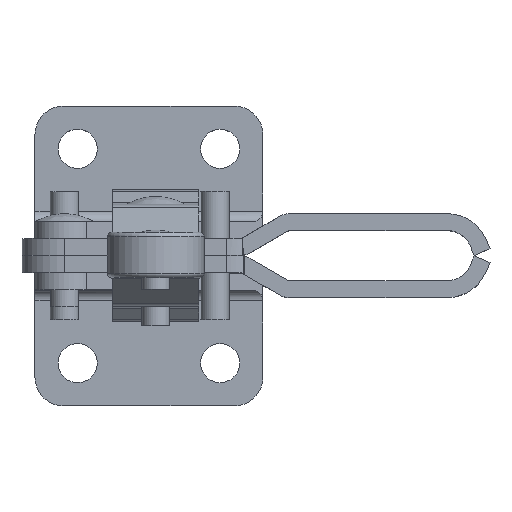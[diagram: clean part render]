
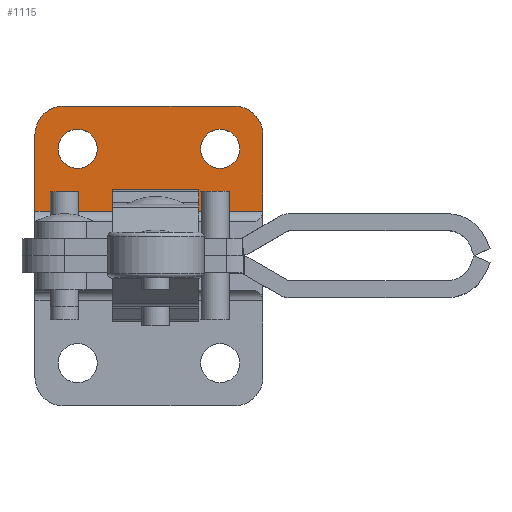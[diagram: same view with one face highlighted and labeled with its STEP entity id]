
A CAD part, top view. The second image highlights one B-rep face of the part: STEP entity #1115.
In plain terms, the highlighted planar face has unit normal (0, 0, 1).
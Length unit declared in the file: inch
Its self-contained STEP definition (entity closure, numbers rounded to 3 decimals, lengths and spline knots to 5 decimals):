
#496=FACE_BOUND('',#2947,.T.);
#497=FACE_BOUND('',#2948,.T.);
#1115=ADVANCED_FACE('',(#496,#497,#2206),#1631,.F.);
#1631=PLANE('',#12780);
#2206=FACE_OUTER_BOUND('',#2949,.T.);
#2947=EDGE_LOOP('',(#6247));
#2948=EDGE_LOOP('',(#6248));
#2949=EDGE_LOOP('',(#6249,#6250,#6251,#6252,#6253,#6254));
#3203=CIRCLE('',#12776,0.086);
#3204=CIRCLE('',#12777,0.086);
#3205=CIRCLE('',#12778,0.125);
#3206=CIRCLE('',#12779,0.125);
#6247=ORIENTED_EDGE('',*,*,#9141,.F.);
#6248=ORIENTED_EDGE('',*,*,#9142,.F.);
#6249=ORIENTED_EDGE('',*,*,#9143,.T.);
#6250=ORIENTED_EDGE('',*,*,#9144,.F.);
#6251=ORIENTED_EDGE('',*,*,#9135,.T.);
#6252=ORIENTED_EDGE('',*,*,#9145,.F.);
#6253=ORIENTED_EDGE('',*,*,#9137,.F.);
#6254=ORIENTED_EDGE('',*,*,#9146,.F.);
#7536=VERTEX_POINT('',#19550);
#7544=VERTEX_POINT('',#19568);
#7545=VERTEX_POINT('',#19570);
#7546=VERTEX_POINT('',#19574);
#7549=VERTEX_POINT('',#19582);
#7550=VERTEX_POINT('',#19584);
#7551=VERTEX_POINT('',#19586);
#7552=VERTEX_POINT('',#19587);
#9135=EDGE_CURVE('',#7545,#7544,#10587,.T.);
#9137=EDGE_CURVE('',#7546,#7536,#10589,.T.);
#9141=EDGE_CURVE('',#7549,#7549,#3203,.T.);
#9142=EDGE_CURVE('',#7550,#7550,#3204,.T.);
#9143=EDGE_CURVE('',#7551,#7552,#10592,.T.);
#9144=EDGE_CURVE('',#7545,#7552,#3205,.T.);
#9145=EDGE_CURVE('',#7536,#7544,#10593,.T.);
#9146=EDGE_CURVE('',#7551,#7546,#3206,.T.);
#10587=LINE('',#19569,#11979);
#10589=LINE('',#19573,#11981);
#10592=LINE('',#19585,#11984);
#10593=LINE('',#19589,#11985);
#11979=VECTOR('',#15645,1.);
#11981=VECTOR('',#15649,1.);
#11984=VECTOR('',#15660,1.);
#11985=VECTOR('',#15663,1.);
#12776=AXIS2_PLACEMENT_3D('',#19581,#15656,#15657);
#12777=AXIS2_PLACEMENT_3D('',#19583,#15658,#15659);
#12778=AXIS2_PLACEMENT_3D('',#19588,#15661,#15662);
#12779=AXIS2_PLACEMENT_3D('',#19590,#15664,#15665);
#12780=AXIS2_PLACEMENT_3D('',#19591,#15666,#15667);
#15645=DIRECTION('',(0.,-1.,0.));
#15649=DIRECTION('',(0.,-1.,0.));
#15656=DIRECTION('',(0.,0.,1.));
#15657=DIRECTION('',(-1.,0.,0.));
#15658=DIRECTION('',(0.,0.,1.));
#15659=DIRECTION('',(-1.,0.,0.));
#15660=DIRECTION('',(-1.,0.,0.));
#15661=DIRECTION('',(0.,0.,-1.));
#15662=DIRECTION('',(-1.,0.,0.));
#15663=DIRECTION('',(-1.,0.,0.));
#15664=DIRECTION('',(0.,0.,-1.));
#15665=DIRECTION('',(-1.,0.,0.));
#15666=DIRECTION('',(0.,0.,-1.));
#15667=DIRECTION('',(-1.,0.,0.));
#19550=CARTESIAN_POINT('',(0.87,0.04687,-0.203));
#19568=CARTESIAN_POINT('',(-0.13,0.04688,-0.203));
#19569=CARTESIAN_POINT('',(-0.13,0.,-0.203));
#19570=CARTESIAN_POINT('',(-0.13,0.383,-0.203));
#19573=CARTESIAN_POINT('',(0.87,1.9253,-0.203));
#19574=CARTESIAN_POINT('',(0.87,0.383,-0.203));
#19581=CARTESIAN_POINT('',(0.6825,0.32,-0.203));
#19582=CARTESIAN_POINT('',(0.5965,0.32,-0.203));
#19583=CARTESIAN_POINT('',(0.0575,0.32,-0.203));
#19584=CARTESIAN_POINT('',(-0.0285,0.32,-0.203));
#19585=CARTESIAN_POINT('',(1.87,0.508,-0.203));
#19586=CARTESIAN_POINT('',(0.745,0.508,-0.203));
#19587=CARTESIAN_POINT('',(-0.005,0.508,-0.203));
#19588=CARTESIAN_POINT('',(-0.005,0.383,-0.203));
#19589=CARTESIAN_POINT('',(1.87,0.04688,-0.203));
#19590=CARTESIAN_POINT('',(0.745,0.383,-0.203));
#19591=CARTESIAN_POINT('',(1.87,0.,-0.203));
